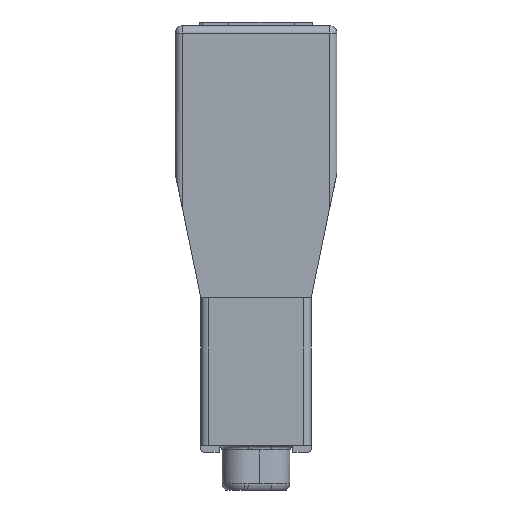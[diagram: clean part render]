
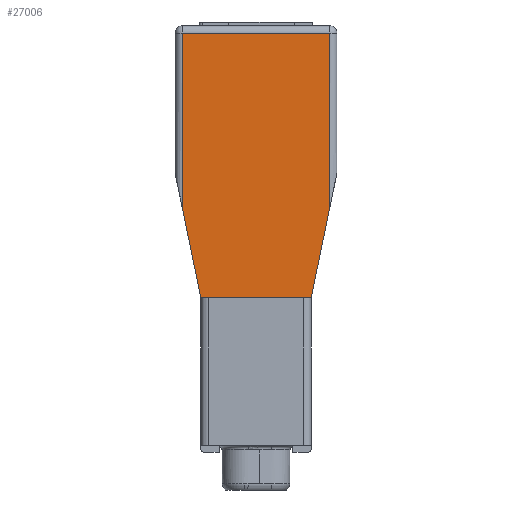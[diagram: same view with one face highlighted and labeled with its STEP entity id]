
A CAD part, left-side view. The second image highlights one B-rep face of the part: STEP entity #27006.
In plain terms, the highlighted planar face has unit normal (-1, 0, 0).
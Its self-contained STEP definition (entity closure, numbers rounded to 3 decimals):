
#26167 = CYLINDRICAL_SURFACE('',#26168,1.);
#26168 = AXIS2_PLACEMENT_3D('',#26169,#26170,#26171);
#26169 = CARTESIAN_POINT('',(-8.5,11.,56.));
#26170 = DIRECTION('',(0.,-1.,0.));
#26171 = DIRECTION('',(0.,0.,1.));
#26373 = VERTEX_POINT('',#26374);
#26374 = CARTESIAN_POINT('',(-9.5,10.,56.));
#26401 = EDGE_CURVE('',#26373,#26402,#26404,.T.);
#26402 = VERTEX_POINT('',#26403);
#26403 = CARTESIAN_POINT('',(-9.5,-10.,56.));
#26404 = SURFACE_CURVE('',#26405,(#26409,#26416),.PCURVE_S1.);
#26405 = LINE('',#26406,#26407);
#26406 = CARTESIAN_POINT('',(-9.5,11.,56.));
#26407 = VECTOR('',#26408,1.);
#26408 = DIRECTION('',(0.,-1.,0.));
#26409 = PCURVE('',#26167,#26410);
#26410 = DEFINITIONAL_REPRESENTATION('',(#26411),#26415);
#26411 = LINE('',#26412,#26413);
#26412 = CARTESIAN_POINT('',(1.571,0.));
#26413 = VECTOR('',#26414,1.);
#26414 = DIRECTION('',(0.,1.));
#26415 = ( GEOMETRIC_REPRESENTATION_CONTEXT(2) 
PARAMETRIC_REPRESENTATION_CONTEXT() REPRESENTATION_CONTEXT('2D SPACE',''
  ) );
#26416 = PCURVE('',#26417,#26422);
#26417 = PLANE('',#26418);
#26418 = AXIS2_PLACEMENT_3D('',#26419,#26420,#26421);
#26419 = CARTESIAN_POINT('',(-9.5,0.,39.595));
#26420 = DIRECTION('',(1.,0.,0.));
#26421 = DIRECTION('',(0.,0.,1.));
#26422 = DEFINITIONAL_REPRESENTATION('',(#26423),#26427);
#26423 = LINE('',#26424,#26425);
#26424 = CARTESIAN_POINT('',(16.405,-11.));
#26425 = VECTOR('',#26426,1.);
#26426 = DIRECTION('',(0.,1.));
#26427 = ( GEOMETRIC_REPRESENTATION_CONTEXT(2) 
PARAMETRIC_REPRESENTATION_CONTEXT() REPRESENTATION_CONTEXT('2D SPACE',''
  ) );
#26964 = CYLINDRICAL_SURFACE('',#26965,1.);
#26965 = AXIS2_PLACEMENT_3D('',#26966,#26967,#26968);
#26966 = CARTESIAN_POINT('',(-8.5,-10.,37.));
#26967 = DIRECTION('',(0.,0.,1.));
#26968 = DIRECTION('',(-1.,0.,0.));
#26995 = CYLINDRICAL_SURFACE('',#26996,1.);
#26996 = AXIS2_PLACEMENT_3D('',#26997,#26998,#26999);
#26997 = CARTESIAN_POINT('',(-8.5,10.,56.));
#26998 = DIRECTION('',(0.,0.,-1.));
#26999 = DIRECTION('',(0.,1.,0.));
#27006 = ADVANCED_FACE('',(#27007),#26417,.F.);
#27007 = FACE_BOUND('',#27008,.F.);
#27008 = EDGE_LOOP('',(#27009,#27010,#27033,#27061,#27089,#27117));
#27009 = ORIENTED_EDGE('',*,*,#26401,.T.);
#27010 = ORIENTED_EDGE('',*,*,#27011,.F.);
#27011 = EDGE_CURVE('',#27012,#26402,#27014,.T.);
#27012 = VERTEX_POINT('',#27013);
#27013 = CARTESIAN_POINT('',(-9.5,-10.,32.143));
#27014 = SURFACE_CURVE('',#27015,(#27019,#27026),.PCURVE_S1.);
#27015 = LINE('',#27016,#27017);
#27016 = CARTESIAN_POINT('',(-9.5,-10.,37.));
#27017 = VECTOR('',#27018,1.);
#27018 = DIRECTION('',(0.,0.,1.));
#27019 = PCURVE('',#26417,#27020);
#27020 = DEFINITIONAL_REPRESENTATION('',(#27021),#27025);
#27021 = LINE('',#27022,#27023);
#27022 = CARTESIAN_POINT('',(-2.595,10.));
#27023 = VECTOR('',#27024,1.);
#27024 = DIRECTION('',(1.,-0.));
#27025 = ( GEOMETRIC_REPRESENTATION_CONTEXT(2) 
PARAMETRIC_REPRESENTATION_CONTEXT() REPRESENTATION_CONTEXT('2D SPACE',''
  ) );
#27026 = PCURVE('',#26964,#27027);
#27027 = DEFINITIONAL_REPRESENTATION('',(#27028),#27032);
#27028 = LINE('',#27029,#27030);
#27029 = CARTESIAN_POINT('',(0.,0.));
#27030 = VECTOR('',#27031,1.);
#27031 = DIRECTION('',(0.,1.));
#27032 = ( GEOMETRIC_REPRESENTATION_CONTEXT(2) 
PARAMETRIC_REPRESENTATION_CONTEXT() REPRESENTATION_CONTEXT('2D SPACE',''
  ) );
#27033 = ORIENTED_EDGE('',*,*,#27034,.T.);
#27034 = EDGE_CURVE('',#27012,#27035,#27037,.T.);
#27035 = VERTEX_POINT('',#27036);
#27036 = CARTESIAN_POINT('',(-9.5,-7.5,20.));
#27037 = SURFACE_CURVE('',#27038,(#27042,#27049),.PCURVE_S1.);
#27038 = LINE('',#27039,#27040);
#27039 = CARTESIAN_POINT('',(-9.5,-11.,37.));
#27040 = VECTOR('',#27041,1.);
#27041 = DIRECTION('',(-0.,0.202,-0.979));
#27042 = PCURVE('',#26417,#27043);
#27043 = DEFINITIONAL_REPRESENTATION('',(#27044),#27048);
#27044 = LINE('',#27045,#27046);
#27045 = CARTESIAN_POINT('',(-2.595,11.));
#27046 = VECTOR('',#27047,1.);
#27047 = DIRECTION('',(-0.979,-0.202));
#27048 = ( GEOMETRIC_REPRESENTATION_CONTEXT(2) 
PARAMETRIC_REPRESENTATION_CONTEXT() REPRESENTATION_CONTEXT('2D SPACE',''
  ) );
#27049 = PCURVE('',#27050,#27055);
#27050 = PLANE('',#27051);
#27051 = AXIS2_PLACEMENT_3D('',#27052,#27053,#27054);
#27052 = CARTESIAN_POINT('',(0.,-11.,37.));
#27053 = DIRECTION('',(0.,-0.979,-0.202));
#27054 = DIRECTION('',(0.,0.202,-0.979));
#27055 = DEFINITIONAL_REPRESENTATION('',(#27056),#27060);
#27056 = LINE('',#27057,#27058);
#27057 = CARTESIAN_POINT('',(0.,-9.5));
#27058 = VECTOR('',#27059,1.);
#27059 = DIRECTION('',(1.,0.));
#27060 = ( GEOMETRIC_REPRESENTATION_CONTEXT(2) 
PARAMETRIC_REPRESENTATION_CONTEXT() REPRESENTATION_CONTEXT('2D SPACE',''
  ) );
#27061 = ORIENTED_EDGE('',*,*,#27062,.T.);
#27062 = EDGE_CURVE('',#27035,#27063,#27065,.T.);
#27063 = VERTEX_POINT('',#27064);
#27064 = CARTESIAN_POINT('',(-9.5,7.5,20.));
#27065 = SURFACE_CURVE('',#27066,(#27070,#27077),.PCURVE_S1.);
#27066 = LINE('',#27067,#27068);
#27067 = CARTESIAN_POINT('',(-9.5,-7.5,20.));
#27068 = VECTOR('',#27069,1.);
#27069 = DIRECTION('',(0.,1.,0.));
#27070 = PCURVE('',#26417,#27071);
#27071 = DEFINITIONAL_REPRESENTATION('',(#27072),#27076);
#27072 = LINE('',#27073,#27074);
#27073 = CARTESIAN_POINT('',(-19.595,7.5));
#27074 = VECTOR('',#27075,1.);
#27075 = DIRECTION('',(-0.,-1.));
#27076 = ( GEOMETRIC_REPRESENTATION_CONTEXT(2) 
PARAMETRIC_REPRESENTATION_CONTEXT() REPRESENTATION_CONTEXT('2D SPACE',''
  ) );
#27077 = PCURVE('',#27078,#27083);
#27078 = PLANE('',#27079);
#27079 = AXIS2_PLACEMENT_3D('',#27080,#27081,#27082);
#27080 = CARTESIAN_POINT('',(0.,0.,20.));
#27081 = DIRECTION('',(-0.,-0.,-1.));
#27082 = DIRECTION('',(-1.,0.,0.));
#27083 = DEFINITIONAL_REPRESENTATION('',(#27084),#27088);
#27084 = LINE('',#27085,#27086);
#27085 = CARTESIAN_POINT('',(9.5,-7.5));
#27086 = VECTOR('',#27087,1.);
#27087 = DIRECTION('',(0.,1.));
#27088 = ( GEOMETRIC_REPRESENTATION_CONTEXT(2) 
PARAMETRIC_REPRESENTATION_CONTEXT() REPRESENTATION_CONTEXT('2D SPACE',''
  ) );
#27089 = ORIENTED_EDGE('',*,*,#27090,.F.);
#27090 = EDGE_CURVE('',#27091,#27063,#27093,.T.);
#27091 = VERTEX_POINT('',#27092);
#27092 = CARTESIAN_POINT('',(-9.5,10.,32.143));
#27093 = SURFACE_CURVE('',#27094,(#27098,#27105),.PCURVE_S1.);
#27094 = LINE('',#27095,#27096);
#27095 = CARTESIAN_POINT('',(-9.5,11.,37.));
#27096 = VECTOR('',#27097,1.);
#27097 = DIRECTION('',(0.,-0.202,-0.979));
#27098 = PCURVE('',#26417,#27099);
#27099 = DEFINITIONAL_REPRESENTATION('',(#27100),#27104);
#27100 = LINE('',#27101,#27102);
#27101 = CARTESIAN_POINT('',(-2.595,-11.));
#27102 = VECTOR('',#27103,1.);
#27103 = DIRECTION('',(-0.979,0.202));
#27104 = ( GEOMETRIC_REPRESENTATION_CONTEXT(2) 
PARAMETRIC_REPRESENTATION_CONTEXT() REPRESENTATION_CONTEXT('2D SPACE',''
  ) );
#27105 = PCURVE('',#27106,#27111);
#27106 = PLANE('',#27107);
#27107 = AXIS2_PLACEMENT_3D('',#27108,#27109,#27110);
#27108 = CARTESIAN_POINT('',(0.,11.,37.));
#27109 = DIRECTION('',(0.,-0.979,0.202));
#27110 = DIRECTION('',(0.,-0.202,-0.979));
#27111 = DEFINITIONAL_REPRESENTATION('',(#27112),#27116);
#27112 = LINE('',#27113,#27114);
#27113 = CARTESIAN_POINT('',(0.,-9.5));
#27114 = VECTOR('',#27115,1.);
#27115 = DIRECTION('',(1.,-0.));
#27116 = ( GEOMETRIC_REPRESENTATION_CONTEXT(2) 
PARAMETRIC_REPRESENTATION_CONTEXT() REPRESENTATION_CONTEXT('2D SPACE',''
  ) );
#27117 = ORIENTED_EDGE('',*,*,#27118,.F.);
#27118 = EDGE_CURVE('',#26373,#27091,#27119,.T.);
#27119 = SURFACE_CURVE('',#27120,(#27124,#27131),.PCURVE_S1.);
#27120 = LINE('',#27121,#27122);
#27121 = CARTESIAN_POINT('',(-9.5,10.,56.));
#27122 = VECTOR('',#27123,1.);
#27123 = DIRECTION('',(0.,0.,-1.));
#27124 = PCURVE('',#26417,#27125);
#27125 = DEFINITIONAL_REPRESENTATION('',(#27126),#27130);
#27126 = LINE('',#27127,#27128);
#27127 = CARTESIAN_POINT('',(16.405,-10.));
#27128 = VECTOR('',#27129,1.);
#27129 = DIRECTION('',(-1.,0.));
#27130 = ( GEOMETRIC_REPRESENTATION_CONTEXT(2) 
PARAMETRIC_REPRESENTATION_CONTEXT() REPRESENTATION_CONTEXT('2D SPACE',''
  ) );
#27131 = PCURVE('',#26995,#27132);
#27132 = DEFINITIONAL_REPRESENTATION('',(#27133),#27137);
#27133 = LINE('',#27134,#27135);
#27134 = CARTESIAN_POINT('',(-1.571,0.));
#27135 = VECTOR('',#27136,1.);
#27136 = DIRECTION('',(-0.,1.));
#27137 = ( GEOMETRIC_REPRESENTATION_CONTEXT(2) 
PARAMETRIC_REPRESENTATION_CONTEXT() REPRESENTATION_CONTEXT('2D SPACE',''
  ) );
